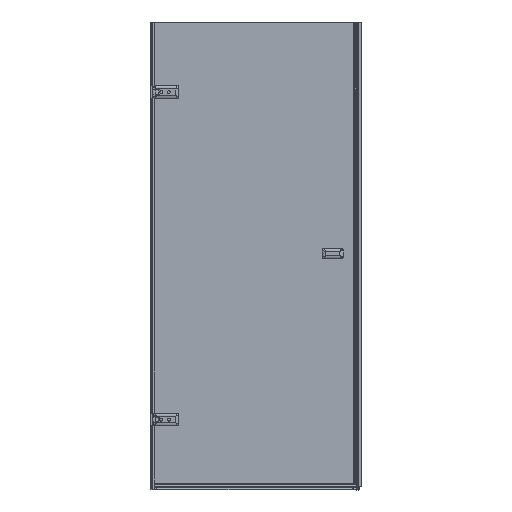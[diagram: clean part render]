
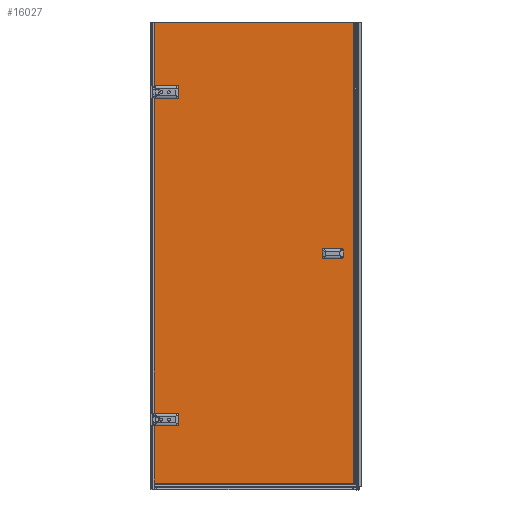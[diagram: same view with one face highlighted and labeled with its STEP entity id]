
A CAD part, left-side view. The second image highlights one B-rep face of the part: STEP entity #16027.
In plain terms, the highlighted planar face has unit normal (-1, 0, 0).
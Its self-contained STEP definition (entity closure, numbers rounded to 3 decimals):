
#802=LINE($,#23462,#2418);
#806=LINE($,#23474,#2422);
#810=LINE($,#23485,#2426);
#972=LINE($,#24259,#2588);
#978=LINE($,#24297,#2594);
#979=LINE($,#24299,#2595);
#998=LINE($,#24365,#2614);
#999=LINE($,#24369,#2615);
#1000=LINE($,#24373,#2616);
#1001=LINE($,#24376,#2617);
#1002=LINE($,#24378,#2618);
#1003=LINE($,#24380,#2619);
#1004=LINE($,#24382,#2620);
#1005=LINE($,#24384,#2621);
#1006=LINE($,#24386,#2622);
#1007=LINE($,#24388,#2623);
#1008=LINE($,#24389,#2624);
#2418=VECTOR($,#18977,96.);
#2422=VECTOR($,#18989,42.);
#2426=VECTOR($,#19001,96.);
#2588=VECTOR($,#19449,1352.474);
#2594=VECTOR($,#19463,256.237);
#2595=VECTOR($,#19464,276.237);
#2614=VECTOR($,#19509,96.);
#2615=VECTOR($,#19512,42.);
#2616=VECTOR($,#19515,96.);
#2617=VECTOR($,#19518,1.167);
#2618=VECTOR($,#19519,855.);
#2619=VECTOR($,#19520,3.387);
#2620=VECTOR($,#19521,855.);
#2621=VECTOR($,#19522,1.213);
#2622=VECTOR($,#19523,855.);
#2623=VECTOR($,#19524,1975.4);
#2624=VECTOR($,#19525,856.167);
#3846=PLANE($,#17117);
#4582=FACE_OUTER_BOUND($,#5492,.T.);
#5492=EDGE_LOOP($,(#11720,#11721,#11722,#11723,#11724,#11725,#11726,#11727,
#11728,#11729,#11730,#11731,#11732,#11733,#11734,#11735,#11736,#11737,#11738,
#11739,#11740,#11741,#11742,#11743,#11744));
#6245=CIRCLE($,#16903,5.);
#6268=CIRCLE($,#16949,5.);
#6269=CIRCLE($,#16952,5.);
#6271=CIRCLE($,#16956,5.);
#6338=CIRCLE($,#17118,5.);
#6339=CIRCLE($,#17119,5.);
#6340=CIRCLE($,#17120,5.);
#6341=CIRCLE($,#17121,5.);
#6912=VERTEX_POINT($,#23240);
#6914=VERTEX_POINT($,#23250);
#6989=VERTEX_POINT($,#23446);
#6991=VERTEX_POINT($,#23457);
#6992=VERTEX_POINT($,#23461);
#6994=VERTEX_POINT($,#23467);
#6996=VERTEX_POINT($,#23473);
#6998=VERTEX_POINT($,#23479);
#7148=VERTEX_POINT($,#24250);
#7149=VERTEX_POINT($,#24260);
#7160=VERTEX_POINT($,#24295);
#7161=VERTEX_POINT($,#24298);
#7184=VERTEX_POINT($,#24362);
#7185=VERTEX_POINT($,#24364);
#7186=VERTEX_POINT($,#24366);
#7187=VERTEX_POINT($,#24368);
#7188=VERTEX_POINT($,#24370);
#7189=VERTEX_POINT($,#24372);
#7190=VERTEX_POINT($,#24375);
#7191=VERTEX_POINT($,#24377);
#7192=VERTEX_POINT($,#24379);
#7193=VERTEX_POINT($,#24381);
#7194=VERTEX_POINT($,#24383);
#7195=VERTEX_POINT($,#24385);
#7196=VERTEX_POINT($,#24387);
#8437=EDGE_CURVE($,#6914,#6912,#6245,.T.);
#8531=EDGE_CURVE($,#6989,#6991,#6268,.T.);
#8532=EDGE_CURVE($,#6991,#6992,#802,.T.);
#8535=EDGE_CURVE($,#6992,#6994,#6269,.T.);
#8538=EDGE_CURVE($,#6994,#6996,#806,.T.);
#8541=EDGE_CURVE($,#6996,#6998,#6271,.T.);
#8544=EDGE_CURVE($,#6998,#6914,#810,.T.);
#8785=EDGE_CURVE($,#6912,#7148,#972,.T.);
#8797=EDGE_CURVE($,#7149,#7160,#978,.T.);
#8798=EDGE_CURVE($,#7161,#6989,#979,.T.);
#8827=EDGE_CURVE($,#7148,#7184,#6338,.T.);
#8828=EDGE_CURVE($,#7184,#7185,#998,.T.);
#8829=EDGE_CURVE($,#7185,#7186,#6339,.T.);
#8830=EDGE_CURVE($,#7186,#7187,#999,.T.);
#8831=EDGE_CURVE($,#7187,#7188,#6340,.T.);
#8832=EDGE_CURVE($,#7188,#7189,#1000,.T.);
#8833=EDGE_CURVE($,#7189,#7149,#6341,.T.);
#8834=EDGE_CURVE($,#7160,#7190,#1001,.T.);
#8835=EDGE_CURVE($,#7190,#7191,#1002,.T.);
#8836=EDGE_CURVE($,#7191,#7192,#1003,.T.);
#8837=EDGE_CURVE($,#7192,#7193,#1004,.T.);
#8838=EDGE_CURVE($,#7193,#7194,#1005,.T.);
#8839=EDGE_CURVE($,#7195,#7194,#1006,.T.);
#8840=EDGE_CURVE($,#7195,#7196,#1007,.T.);
#8841=EDGE_CURVE($,#7161,#7196,#1008,.T.);
#11720=ORIENTED_EDGE($,*,*,#8531,.T.);
#11721=ORIENTED_EDGE($,*,*,#8532,.T.);
#11722=ORIENTED_EDGE($,*,*,#8535,.T.);
#11723=ORIENTED_EDGE($,*,*,#8538,.T.);
#11724=ORIENTED_EDGE($,*,*,#8541,.T.);
#11725=ORIENTED_EDGE($,*,*,#8544,.T.);
#11726=ORIENTED_EDGE($,*,*,#8437,.T.);
#11727=ORIENTED_EDGE($,*,*,#8785,.T.);
#11728=ORIENTED_EDGE($,*,*,#8827,.T.);
#11729=ORIENTED_EDGE($,*,*,#8828,.T.);
#11730=ORIENTED_EDGE($,*,*,#8829,.T.);
#11731=ORIENTED_EDGE($,*,*,#8830,.T.);
#11732=ORIENTED_EDGE($,*,*,#8831,.T.);
#11733=ORIENTED_EDGE($,*,*,#8832,.T.);
#11734=ORIENTED_EDGE($,*,*,#8833,.T.);
#11735=ORIENTED_EDGE($,*,*,#8797,.T.);
#11736=ORIENTED_EDGE($,*,*,#8834,.T.);
#11737=ORIENTED_EDGE($,*,*,#8835,.T.);
#11738=ORIENTED_EDGE($,*,*,#8836,.T.);
#11739=ORIENTED_EDGE($,*,*,#8837,.T.);
#11740=ORIENTED_EDGE($,*,*,#8838,.T.);
#11741=ORIENTED_EDGE($,*,*,#8839,.F.);
#11742=ORIENTED_EDGE($,*,*,#8840,.T.);
#11743=ORIENTED_EDGE($,*,*,#8841,.F.);
#11744=ORIENTED_EDGE($,*,*,#8798,.T.);
#16027=ADVANCED_FACE($,(#4582),#3846,.T.);
#16903=AXIS2_PLACEMENT_3D($,#23251,#18812,#18813);
#16949=AXIS2_PLACEMENT_3D($,#23459,#18973,#18974);
#16952=AXIS2_PLACEMENT_3D($,#23468,#18982,#18983);
#16956=AXIS2_PLACEMENT_3D($,#23480,#18994,#18995);
#17117=AXIS2_PLACEMENT_3D($,#24361,#19505,#19506);
#17118=AXIS2_PLACEMENT_3D($,#24363,#19507,#19508);
#17119=AXIS2_PLACEMENT_3D($,#24367,#19510,#19511);
#17120=AXIS2_PLACEMENT_3D($,#24371,#19513,#19514);
#17121=AXIS2_PLACEMENT_3D($,#24374,#19516,#19517);
#18812=DIRECTION('center_axis',(1.,0.,0.));
#18813=DIRECTION('ref_axis',(0.,-1.,0.));
#18973=DIRECTION('center_axis',(1.,0.,0.));
#18974=DIRECTION('ref_axis',(0.,0.,
-1.));
#18977=DIRECTION($,(0.,-1.,0.));
#18982=DIRECTION('center_axis',(1.,0.,0.));
#18983=DIRECTION('ref_axis',(0.,1.,0.));
#18989=DIRECTION($,(0.,0.,-1.));
#18994=DIRECTION('center_axis',(1.,0.,0.));
#18995=DIRECTION('ref_axis',(0.,0.,
1.));
#19001=DIRECTION($,(0.,1.,0.));
#19449=DIRECTION($,(0.,0.,-1.));
#19463=DIRECTION($,(0.,0.,-1.));
#19464=DIRECTION($,(0.,0.,-1.));
#19505=DIRECTION('center_axis',(-1.,0.,0.));
#19506=DIRECTION('ref_axis',(0.,-1.,0.));
#19507=DIRECTION('center_axis',(1.,0.,0.));
#19508=DIRECTION('ref_axis',(0.,0.,
-1.));
#19509=DIRECTION($,(0.,-1.,0.));
#19510=DIRECTION('center_axis',(1.,0.,0.));
#19511=DIRECTION('ref_axis',(0.,1.,0.));
#19512=DIRECTION($,(0.,0.,-1.));
#19513=DIRECTION('center_axis',(1.,0.,0.));
#19514=DIRECTION('ref_axis',(0.,0.,
1.));
#19515=DIRECTION($,(0.,1.,0.));
#19516=DIRECTION('center_axis',(1.,0.,0.));
#19517=DIRECTION('ref_axis',(0.,-1.,0.));
#19518=DIRECTION($,(0.,-1.,0.));
#19519=DIRECTION($,(0.,-1.,0.));
#19520=DIRECTION($,(0.,0.,1.));
#19521=DIRECTION($,(0.,1.,0.));
#19522=DIRECTION($,(0.,0.,1.));
#19523=DIRECTION($,(0.,1.,0.));
#19524=DIRECTION($,(0.,0.,1.));
#19525=DIRECTION($,(0.,-1.,0.));
#23240=CARTESIAN_POINT('',(1175.833,830.123,1262.182));
#23250=CARTESIAN_POINT('',(1175.833,825.956,1259.944));
#23251=CARTESIAN_POINT('Origin',(1175.833,825.956,1264.944));
#23446=CARTESIAN_POINT('',(1175.833,830.123,1309.707));
#23457=CARTESIAN_POINT('',(1175.833,825.956,1311.944));
#23459=CARTESIAN_POINT('Origin',(1175.833,825.956,1306.944));
#23461=CARTESIAN_POINT('',(1175.833,729.956,1311.944));
#23462=CARTESIAN_POINT($,(1175.833,780.956,1311.944));
#23467=CARTESIAN_POINT('',(1175.833,724.956,1306.944));
#23468=CARTESIAN_POINT('Origin',(1175.833,729.956,1306.944));
#23473=CARTESIAN_POINT('',(1175.833,724.956,1264.944));
#23474=CARTESIAN_POINT($,(1175.833,724.956,435.444));
#23479=CARTESIAN_POINT('',(1175.833,729.956,1259.944));
#23480=CARTESIAN_POINT('Origin',(1175.833,729.956,1264.944));
#23485=CARTESIAN_POINT($,(1175.833,828.956,1259.944));
#24250=CARTESIAN_POINT('',(1175.833,830.123,-90.293));
#24259=CARTESIAN_POINT($,(1175.833,830.123,-414.056));
#24260=CARTESIAN_POINT('',(1175.833,830.123,-137.818));
#24295=CARTESIAN_POINT('',(1175.833,830.123,-394.056));
#24297=CARTESIAN_POINT($,(1175.833,830.123,-414.056));
#24298=CARTESIAN_POINT('',(1175.833,830.123,1585.944));
#24299=CARTESIAN_POINT($,(1175.833,830.123,-414.056));
#24361=CARTESIAN_POINT('Origin',(1175.833,831.956,-394.056));
#24362=CARTESIAN_POINT('',(1175.833,825.956,-88.056));
#24363=CARTESIAN_POINT('Origin',(1175.833,825.956,-93.056));
#24364=CARTESIAN_POINT('',(1175.833,729.956,-88.056));
#24365=CARTESIAN_POINT($,(1175.833,780.956,-88.056));
#24366=CARTESIAN_POINT('',(1175.833,724.956,-93.056));
#24367=CARTESIAN_POINT('Origin',(1175.833,729.956,-93.056));
#24368=CARTESIAN_POINT('',(1175.833,724.956,-135.056));
#24369=CARTESIAN_POINT($,(1175.833,724.956,-264.556));
#24370=CARTESIAN_POINT('',(1175.833,729.956,-140.056));
#24371=CARTESIAN_POINT('Origin',(1175.833,729.956,-135.056));
#24372=CARTESIAN_POINT('',(1175.833,825.956,-140.056));
#24373=CARTESIAN_POINT($,(1175.833,828.956,-140.056));
#24374=CARTESIAN_POINT('Origin',(1175.833,825.956,-135.056));
#24375=CARTESIAN_POINT('',(1175.833,828.956,-394.056));
#24376=CARTESIAN_POINT($,(1175.833,831.956,-394.056));
#24377=CARTESIAN_POINT('',(1175.833,-26.044,-394.056));
#24378=CARTESIAN_POINT($,(1175.833,831.956,-394.056));
#24379=CARTESIAN_POINT('',(1175.833,-26.044,-390.668));
#24380=CARTESIAN_POINT($,(1175.833,-26.044,-394.056));
#24381=CARTESIAN_POINT('',(1175.833,828.956,-390.668));
#24382=CARTESIAN_POINT($,(1175.833,-39.044,-390.668));
#24383=CARTESIAN_POINT('',(1175.833,828.956,-389.456));
#24384=CARTESIAN_POINT($,(1175.833,828.956,-393.463));
#24385=CARTESIAN_POINT('',(1175.833,-26.044,-389.456));
#24386=CARTESIAN_POINT($,(1175.833,-39.044,-389.456));
#24387=CARTESIAN_POINT('',(1175.833,-26.044,1585.944));
#24388=CARTESIAN_POINT($,(1175.833,-26.044,-394.056));
#24389=CARTESIAN_POINT($,(1175.833,831.956,1585.944));
